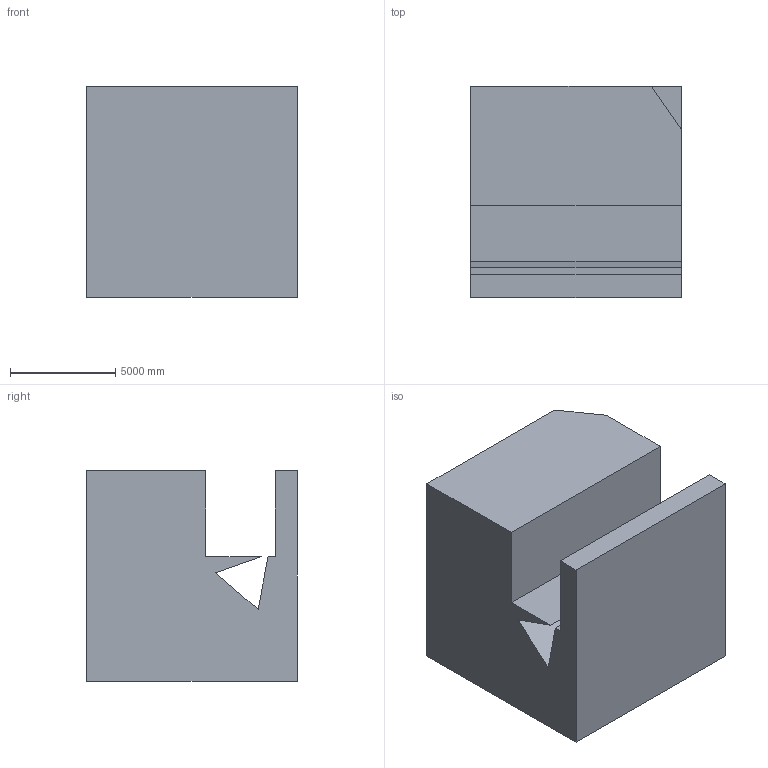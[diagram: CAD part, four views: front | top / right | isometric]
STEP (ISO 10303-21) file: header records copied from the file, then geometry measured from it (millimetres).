
FILE_DESCRIPTION (( 'STEP AP203' ), '1' );
FILE_NAME ('1269.STEP', '2022-08-18T13:29:11', ( 'user' ), ( '' ), 'SwSTEP 2.0', 'SolidWorks 2021', '' );
FILE_SCHEMA (( 'CONFIG_CONTROL_DESIGN' ));
Length unit declared in the file: centimetre
Products named in the file (1): 1269
Bounding box: 10000 x 10000 x 10000 mm (x, y, z)
Volume: 832289418847 mm3; surface area: 719033490.4 mm2
Topology: 1 solids, 1 shells, 16 faces, 42 edges, 28 vertices
Faces by surface type: plane 16
Entity records: 563 total; most frequent: CARTESIAN_POINT 87, ORIENTED_EDGE 84, DIRECTION 76, EDGE_CURVE 42, VECTOR 42, LINE 42, VERTEX_POINT 28, AXIS2_PLACEMENT_3D 17
